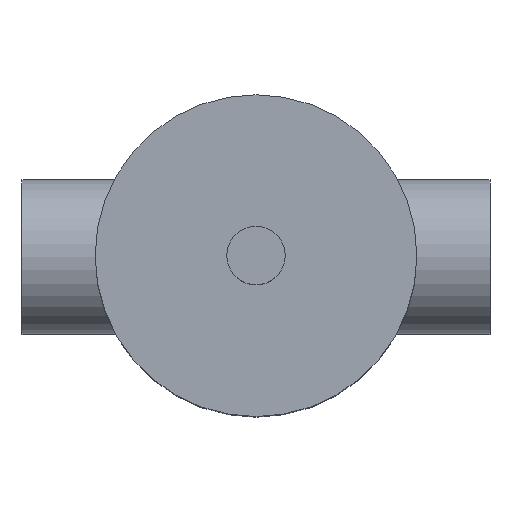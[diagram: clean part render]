
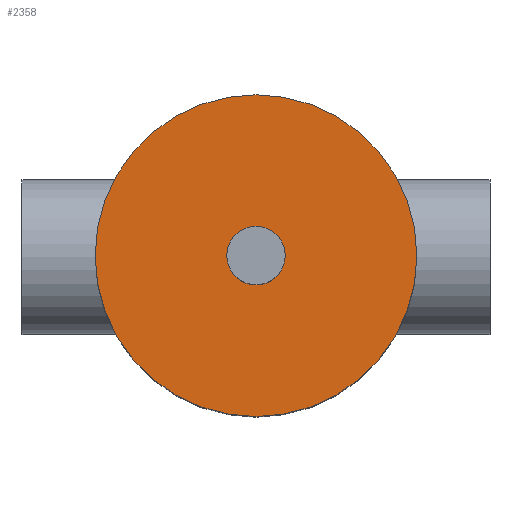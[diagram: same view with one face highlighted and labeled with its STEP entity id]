
A CAD part, top view. The second image highlights one B-rep face of the part: STEP entity #2358.
In plain terms, the highlighted planar face has unit normal (0, 0, 1).
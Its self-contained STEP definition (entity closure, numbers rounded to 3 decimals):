
#2274 = CYLINDRICAL_SURFACE('',#2275,55.);
#2275 = AXIS2_PLACEMENT_3D('',#2276,#2277,#2278);
#2276 = CARTESIAN_POINT('',(0.,0.,157.));
#2277 = DIRECTION('',(0.,0.,1.));
#2278 = DIRECTION('',(1.,0.,0.));
#2307 = EDGE_CURVE('',#2308,#2308,#2310,.T.);
#2308 = VERTEX_POINT('',#2309);
#2309 = CARTESIAN_POINT('',(55.,0.,282.6));
#2310 = SURFACE_CURVE('',#2311,(#2316,#2323),.PCURVE_S1.);
#2311 = CIRCLE('',#2312,55.);
#2312 = AXIS2_PLACEMENT_3D('',#2313,#2314,#2315);
#2313 = CARTESIAN_POINT('',(0.,0.,282.6));
#2314 = DIRECTION('',(0.,0.,1.));
#2315 = DIRECTION('',(1.,0.,0.));
#2316 = PCURVE('',#2274,#2317);
#2317 = DEFINITIONAL_REPRESENTATION('',(#2318),#2322);
#2318 = LINE('',#2319,#2320);
#2319 = CARTESIAN_POINT('',(0.,125.6));
#2320 = VECTOR('',#2321,1.);
#2321 = DIRECTION('',(1.,0.));
#2322 = ( GEOMETRIC_REPRESENTATION_CONTEXT(2) 
PARAMETRIC_REPRESENTATION_CONTEXT() REPRESENTATION_CONTEXT('2D SPACE',''
  ) );
#2323 = PCURVE('',#2324,#2329);
#2324 = PLANE('',#2325);
#2325 = AXIS2_PLACEMENT_3D('',#2326,#2327,#2328);
#2326 = CARTESIAN_POINT('',(0.,0.,282.6));
#2327 = DIRECTION('',(0.,0.,1.));
#2328 = DIRECTION('',(1.,0.,0.));
#2329 = DEFINITIONAL_REPRESENTATION('',(#2330),#2334);
#2330 = CIRCLE('',#2331,55.);
#2331 = AXIS2_PLACEMENT_2D('',#2332,#2333);
#2332 = CARTESIAN_POINT('',(0.,0.));
#2333 = DIRECTION('',(1.,0.));
#2334 = ( GEOMETRIC_REPRESENTATION_CONTEXT(2) 
PARAMETRIC_REPRESENTATION_CONTEXT() REPRESENTATION_CONTEXT('2D SPACE',''
  ) );
#2358 = ADVANCED_FACE('',(#2359,#2362),#2324,.T.);
#2359 = FACE_BOUND('',#2360,.T.);
#2360 = EDGE_LOOP('',(#2361));
#2361 = ORIENTED_EDGE('',*,*,#2307,.T.);
#2362 = FACE_BOUND('',#2363,.T.);
#2363 = EDGE_LOOP('',(#2364));
#2364 = ORIENTED_EDGE('',*,*,#2365,.F.);
#2365 = EDGE_CURVE('',#2366,#2366,#2368,.T.);
#2366 = VERTEX_POINT('',#2367);
#2367 = CARTESIAN_POINT('',(10.,0.,282.6));
#2368 = SURFACE_CURVE('',#2369,(#2374,#2381),.PCURVE_S1.);
#2369 = CIRCLE('',#2370,10.);
#2370 = AXIS2_PLACEMENT_3D('',#2371,#2372,#2373);
#2371 = CARTESIAN_POINT('',(0.,0.,282.6));
#2372 = DIRECTION('',(0.,0.,1.));
#2373 = DIRECTION('',(1.,0.,-0.));
#2374 = PCURVE('',#2324,#2375);
#2375 = DEFINITIONAL_REPRESENTATION('',(#2376),#2380);
#2376 = CIRCLE('',#2377,10.);
#2377 = AXIS2_PLACEMENT_2D('',#2378,#2379);
#2378 = CARTESIAN_POINT('',(0.,0.));
#2379 = DIRECTION('',(1.,0.));
#2380 = ( GEOMETRIC_REPRESENTATION_CONTEXT(2) 
PARAMETRIC_REPRESENTATION_CONTEXT() REPRESENTATION_CONTEXT('2D SPACE',''
  ) );
#2381 = PCURVE('',#2382,#2387);
#2382 = CYLINDRICAL_SURFACE('',#2383,10.);
#2383 = AXIS2_PLACEMENT_3D('',#2384,#2385,#2386);
#2384 = CARTESIAN_POINT('',(0.,0.,45.));
#2385 = DIRECTION('',(0.,0.,1.));
#2386 = DIRECTION('',(1.,0.,0.));
#2387 = DEFINITIONAL_REPRESENTATION('',(#2388),#2392);
#2388 = LINE('',#2389,#2390);
#2389 = CARTESIAN_POINT('',(0.,237.6));
#2390 = VECTOR('',#2391,1.);
#2391 = DIRECTION('',(1.,0.));
#2392 = ( GEOMETRIC_REPRESENTATION_CONTEXT(2) 
PARAMETRIC_REPRESENTATION_CONTEXT() REPRESENTATION_CONTEXT('2D SPACE',''
  ) );
